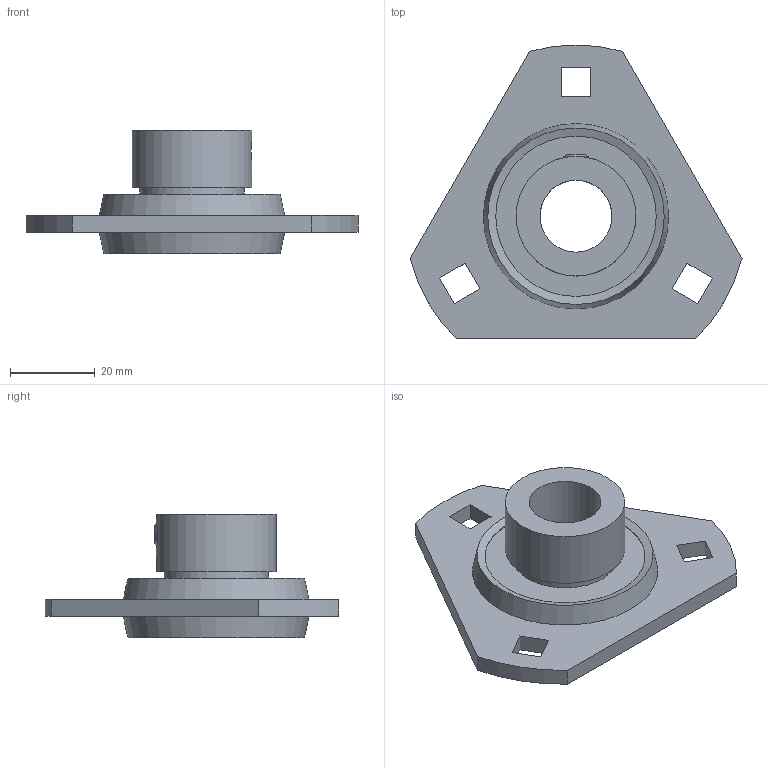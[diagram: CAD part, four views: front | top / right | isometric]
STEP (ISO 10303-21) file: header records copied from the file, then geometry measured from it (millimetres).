
FILE_DESCRIPTION((''),'2;1');
FILE_NAME('\\Ts-tgl068\j-cad-d-base\00.3DCADデータ作成フォルダ\02.フランジ形\KHPFT\KHPFT203A.stp','2014-04-24T10:28:40',('btec_1106_2'),(''),'Autodesk Inventor 2012','Autodesk Inventor 2012','');
FILE_SCHEMA(('AUTOMOTIVE_DESIGN { 1 0 10303 214 1 1 1 1 }'));
Length unit declared in the file: millimetre
Products named in the file (3): KHPFT200A; PFT3; KH203GA
Assembly tree (2 placements, depth 2):
  KHPFT200A
    PFT3
    KH203GA
Bounding box: 78.5 x 69.5 x 29.1 mm (x, y, z)
Volume: 30104.6 mm3; surface area: 15770.2 mm2
Topology: 2 solids, 2 shells, 51 faces, 127 edges, 84 vertices
Faces by surface type: plane 30, cylinder 12, sphere 4, cone 4, torus 1
Full cylindrical faces by diameter (mm): 4.8 x1, 17 x1, 22.35 x1, 24.7 x1, 28.3 x1
Entity records: 1517 total; most frequent: CARTESIAN_POINT 312, DIRECTION 236, ORIENTED_EDGE 204, EDGE_CURVE 102, AXIS2_PLACEMENT_3D 85, EDGE_LOOP 80, VERTEX_POINT 74, VECTOR 66
